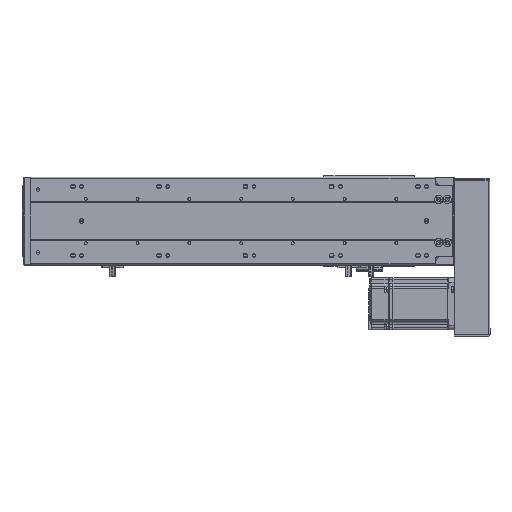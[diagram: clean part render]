
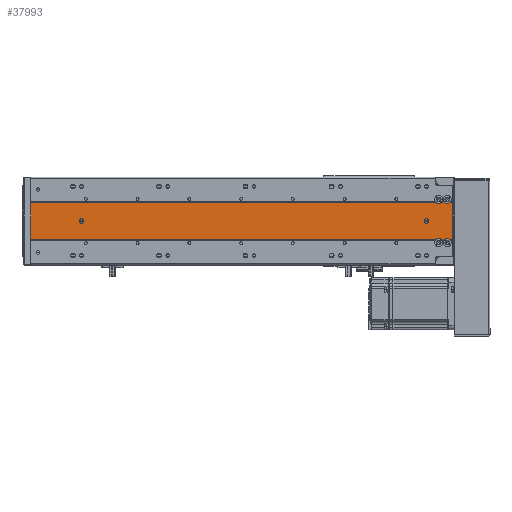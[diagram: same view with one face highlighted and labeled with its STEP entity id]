
A CAD part, front view. The second image highlights one B-rep face of the part: STEP entity #37993.
In plain terms, the highlighted planar face has unit normal (0, -1, 0).
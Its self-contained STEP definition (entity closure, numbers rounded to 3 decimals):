
#2953 = FACE_BOUND ( 'NONE', #14670, .T. ) ;
#2991 = FACE_BOUND ( 'NONE', #14742, .T. ) ;
#2996 = FACE_OUTER_BOUND ( 'NONE', #14678, .T. ) ;
#7656 = ORIENTED_EDGE ( 'NONE', *, *, #21177, .F. ) ;
#7660 = ORIENTED_EDGE ( 'NONE', *, *, #21561, .F. ) ;
#7663 = ORIENTED_EDGE ( 'NONE', *, *, #20690, .T. ) ;
#7677 = ORIENTED_EDGE ( 'NONE', *, *, #21155, .F. ) ;
#7696 = ORIENTED_EDGE ( 'NONE', *, *, #23199, .F. ) ;
#7705 = ORIENTED_EDGE ( 'NONE', *, *, #23178, .F. ) ;
#7719 = ORIENTED_EDGE ( 'NONE', *, *, #23203, .T. ) ;
#7723 = ORIENTED_EDGE ( 'NONE', *, *, #21690, .F. ) ;
#7729 = ORIENTED_EDGE ( 'NONE', *, *, #23209, .F. ) ;
#7737 = ORIENTED_EDGE ( 'NONE', *, *, #23162, .T. ) ;
#7742 = ORIENTED_EDGE ( 'NONE', *, *, #21615, .T. ) ;
#7749 = ORIENTED_EDGE ( 'NONE', *, *, #21634, .F. ) ;
#7751 = ORIENTED_EDGE ( 'NONE', *, *, #20734, .T. ) ;
#7773 = ORIENTED_EDGE ( 'NONE', *, *, #21618, .T. ) ;
#7827 = ORIENTED_EDGE ( 'NONE', *, *, #23213, .T. ) ;
#7830 = ORIENTED_EDGE ( 'NONE', *, *, #23214, .T. ) ;
#10906 = CARTESIAN_POINT ( 'NONE',  ( 140.403, 89.548, 59. ) ) ;
#10910 = DIRECTION ( 'NONE',  ( 1., 0., 0. ) ) ;
#10935 = DIRECTION ( 'NONE',  ( 0., -1., 0. ) ) ;
#10949 = CARTESIAN_POINT ( 'NONE',  ( 140.403, 89.548, 459. ) ) ;
#10962 = DIRECTION ( 'NONE',  ( 1., 0., 0. ) ) ;
#10972 = DIRECTION ( 'NONE',  ( 0., -1., 0. ) ) ;
#11452 = CARTESIAN_POINT ( 'NONE',  ( 118.817, 89.548, 486.302 ) ) ;
#14670 = EDGE_LOOP ( 'NONE', ( #7705, #7677 ) ) ;
#14678 = EDGE_LOOP ( 'NONE', ( #7660, #7663, #7729, #7749, #7827, #7719, #7773, #7737, #7742, #7830, #7723, #7751 ) ) ;
#14742 = EDGE_LOOP ( 'NONE', ( #7696, #7656 ) ) ;
#17355 = CARTESIAN_POINT ( 'NONE',  ( 161.989, 89.548, 479.698 ) ) ;
#17583 = CARTESIAN_POINT ( 'NONE',  ( 161.989, 89.548, 0. ) ) ;
#17602 = CARTESIAN_POINT ( 'NONE',  ( 118.817, 89.548, 489. ) ) ;
#17615 = DIRECTION ( 'NONE',  ( 1., 0., 0. ) ) ;
#17643 = DIRECTION ( 'NONE',  ( 0., 0., -1. ) ) ;
#20690 = EDGE_CURVE ( 'NONE', #24711, #46343, #26781, .T. ) ;
#20734 = EDGE_CURVE ( 'NONE', #46333, #46324, #26820, .T. ) ;
#21155 = EDGE_CURVE ( 'NONE', #46530, #46532, #44473, .T. ) ;
#21177 = EDGE_CURVE ( 'NONE', #46461, #46520, #44475, .T. ) ;
#21561 = EDGE_CURVE ( 'NONE', #24711, #46324, #40059, .T. ) ;
#21615 = EDGE_CURVE ( 'NONE', #46678, #46702, #40109, .T. ) ;
#21618 = EDGE_CURVE ( 'NONE', #46647, #46688, #40120, .T. ) ;
#21634 = EDGE_CURVE ( 'NONE', #46689, #46704, #40217, .T. ) ;
#21690 = EDGE_CURVE ( 'NONE', #46333, #46658, #40288, .T. ) ;
#22209 = CARTESIAN_POINT ( 'NONE',  ( 161.989, 89.548, 489. ) ) ;
#22217 = DIRECTION ( 'NONE',  ( 0., 1., 0. ) ) ;
#22219 = DIRECTION ( 'NONE',  ( -1., 0., 0. ) ) ;
#22252 = PLANE ( 'NONE',  #34525 ) ;
#23162 = EDGE_CURVE ( 'NONE', #46688, #46678, #23855, .T. ) ;
#23178 = EDGE_CURVE ( 'NONE', #46532, #46530, #23913, .T. ) ;
#23199 = EDGE_CURVE ( 'NONE', #46520, #46461, #24013, .T. ) ;
#23203 = EDGE_CURVE ( 'NONE', #31673, #46647, #23973, .T. ) ;
#23209 = EDGE_CURVE ( 'NONE', #46704, #46343, #24063, .T. ) ;
#23213 = EDGE_CURVE ( 'NONE', #46689, #31673, #24073, .T. ) ;
#23214 = EDGE_CURVE ( 'NONE', #46702, #46658, #23977, .T. ) ;
#23855 = CIRCLE ( 'NONE', #41348, 4.75 ) ;
#23913 = CIRCLE ( 'NONE', #41351, 2.5 ) ;
#23967 = VECTOR ( 'NONE', #25704, 1000. ) ;
#23973 = CIRCLE ( 'NONE', #41328, 4.75 ) ;
#23977 = LINE ( 'NONE', #17583, #24005 ) ;
#24005 = VECTOR ( 'NONE', #17615, 1000. ) ;
#24013 = CIRCLE ( 'NONE', #41327, 2.5 ) ;
#24063 = LINE ( 'NONE', #25949, #23967 ) ;
#24067 = VECTOR ( 'NONE', #17643, 1000. ) ;
#24073 = LINE ( 'NONE', #17602, #24067 ) ;
#24711 = VERTEX_POINT ( 'NONE', #17355 ) ;
#25704 = DIRECTION ( 'NONE',  ( 0., 0., -1. ) ) ;
#25818 = CARTESIAN_POINT ( 'NONE',  ( 115.403, 89.548, 473. ) ) ;
#25821 = DIRECTION ( 'NONE',  ( -1., 0., 0. ) ) ;
#25844 = DIRECTION ( 'NONE',  ( 0., 1., 0. ) ) ;
#25863 = CARTESIAN_POINT ( 'NONE',  ( 140.403, 89.548, 59. ) ) ;
#25873 = DIRECTION ( 'NONE',  ( 0., -1., 0. ) ) ;
#25874 = DIRECTION ( 'NONE',  ( 1., 0., 0. ) ) ;
#25898 = DIRECTION ( 'NONE',  ( 0., -1., 0. ) ) ;
#25910 = DIRECTION ( 'NONE',  ( 0., 1., 0. ) ) ;
#25914 = DIRECTION ( 'NONE',  ( -1., 0., 0. ) ) ;
#25919 = CARTESIAN_POINT ( 'NONE',  ( 140.403, 89.548, 459. ) ) ;
#25920 = CARTESIAN_POINT ( 'NONE',  ( 115.403, 89.548, 483. ) ) ;
#25933 = DIRECTION ( 'NONE',  ( 1., 0., 0. ) ) ;
#25949 = CARTESIAN_POINT ( 'NONE',  ( 161.989, 89.548, 489. ) ) ;
#26781 = CIRCLE ( 'NONE', #52499, 4.75 ) ;
#26820 = CIRCLE ( 'NONE', #52491, 4.75 ) ;
#31673 = VERTEX_POINT ( 'NONE', #11452 ) ;
#31848 = CARTESIAN_POINT ( 'NONE',  ( 142.903, 89.548, 459. ) ) ;
#32049 = CARTESIAN_POINT ( 'NONE',  ( 137.903, 89.548, 59. ) ) ;
#32294 = CARTESIAN_POINT ( 'NONE',  ( 142.903, 89.548, 59. ) ) ;
#32776 = CARTESIAN_POINT ( 'NONE',  ( 161.989, 89.548, 469.698 ) ) ;
#32785 = CARTESIAN_POINT ( 'NONE',  ( 161.989, 89.548, 486.302 ) ) ;
#32798 = CARTESIAN_POINT ( 'NONE',  ( 161.989, 89.548, 476.302 ) ) ;
#32949 = CARTESIAN_POINT ( 'NONE',  ( 137.903, 89.548, 459. ) ) ;
#34525 = AXIS2_PLACEMENT_3D ( 'NONE', #22209, #22217, #22219 ) ;
#37993 = ADVANCED_FACE ( 'NONE', ( #2991, #2953, #2996 ), #22252, .F. ) ;
#39651 = CARTESIAN_POINT ( 'NONE',  ( 161.989, 89.548, 489. ) ) ;
#39674 = DIRECTION ( 'NONE',  ( 0., 0., -1. ) ) ;
#39728 = CARTESIAN_POINT ( 'NONE',  ( 118.817, 89.548, 489. ) ) ;
#39730 = DIRECTION ( 'NONE',  ( 0., 0., -1. ) ) ;
#39733 = DIRECTION ( 'NONE',  ( 0., 0., -1. ) ) ;
#39736 = CARTESIAN_POINT ( 'NONE',  ( 118.817, 89.548, 489. ) ) ;
#39769 = CARTESIAN_POINT ( 'NONE',  ( 161.989, 89.548, 489. ) ) ;
#39778 = DIRECTION ( 'NONE',  ( 1., 0., 0. ) ) ;
#39888 = CARTESIAN_POINT ( 'NONE',  ( 161.989, 89.548, 489. ) ) ;
#39889 = DIRECTION ( 'NONE',  ( 0., 0., -1. ) ) ;
#40059 = LINE ( 'NONE', #39651, #40100 ) ;
#40100 = VECTOR ( 'NONE', #39674, 1000. ) ;
#40109 = LINE ( 'NONE', #39728, #40152 ) ;
#40120 = LINE ( 'NONE', #39736, #40124 ) ;
#40124 = VECTOR ( 'NONE', #39733, 1000. ) ;
#40152 = VECTOR ( 'NONE', #39730, 1000. ) ;
#40206 = VECTOR ( 'NONE', #39778, 1000. ) ;
#40217 = LINE ( 'NONE', #39769, #40206 ) ;
#40271 = VECTOR ( 'NONE', #39889, 1000. ) ;
#40288 = LINE ( 'NONE', #39888, #40271 ) ;
#41139 = AXIS2_PLACEMENT_3D ( 'NONE', #10949, #10972, #10962 ) ;
#41151 = AXIS2_PLACEMENT_3D ( 'NONE', #10906, #10935, #10910 ) ;
#41327 = AXIS2_PLACEMENT_3D ( 'NONE', #25919, #25898, #25933 ) ;
#41328 = AXIS2_PLACEMENT_3D ( 'NONE', #25920, #25910, #25914 ) ;
#41348 = AXIS2_PLACEMENT_3D ( 'NONE', #25818, #25844, #25821 ) ;
#41351 = AXIS2_PLACEMENT_3D ( 'NONE', #25863, #25873, #25874 ) ;
#44473 = CIRCLE ( 'NONE', #41151, 2.5 ) ;
#44475 = CIRCLE ( 'NONE', #41139, 2.5 ) ;
#45866 = DIRECTION ( 'NONE',  ( 0., 1., 0. ) ) ;
#45904 = CARTESIAN_POINT ( 'NONE',  ( 165.403, 89.548, 483. ) ) ;
#45906 = DIRECTION ( 'NONE',  ( -1., 0., 0. ) ) ;
#45976 = DIRECTION ( 'NONE',  ( 0., 1., 0. ) ) ;
#45986 = CARTESIAN_POINT ( 'NONE',  ( 165.403, 89.548, 473. ) ) ;
#45988 = DIRECTION ( 'NONE',  ( -1., 0., 0. ) ) ;
#46324 = VERTEX_POINT ( 'NONE', #32798 ) ;
#46333 = VERTEX_POINT ( 'NONE', #32776 ) ;
#46343 = VERTEX_POINT ( 'NONE', #32785 ) ;
#46461 = VERTEX_POINT ( 'NONE', #32949 ) ;
#46520 = VERTEX_POINT ( 'NONE', #31848 ) ;
#46530 = VERTEX_POINT ( 'NONE', #32049 ) ;
#46532 = VERTEX_POINT ( 'NONE', #32294 ) ;
#46647 = VERTEX_POINT ( 'NONE', #59971 ) ;
#46658 = VERTEX_POINT ( 'NONE', #59995 ) ;
#46678 = VERTEX_POINT ( 'NONE', #60081 ) ;
#46688 = VERTEX_POINT ( 'NONE', #60135 ) ;
#46689 = VERTEX_POINT ( 'NONE', #60068 ) ;
#46702 = VERTEX_POINT ( 'NONE', #60103 ) ;
#46704 = VERTEX_POINT ( 'NONE', #60096 ) ;
#52491 = AXIS2_PLACEMENT_3D ( 'NONE', #45986, #45976, #45988 ) ;
#52499 = AXIS2_PLACEMENT_3D ( 'NONE', #45904, #45866, #45906 ) ;
#59971 = CARTESIAN_POINT ( 'NONE',  ( 118.817, 89.548, 479.698 ) ) ;
#59995 = CARTESIAN_POINT ( 'NONE',  ( 161.989, 89.548, 0. ) ) ;
#60068 = CARTESIAN_POINT ( 'NONE',  ( 118.817, 89.548, 489. ) ) ;
#60081 = CARTESIAN_POINT ( 'NONE',  ( 118.817, 89.548, 469.698 ) ) ;
#60096 = CARTESIAN_POINT ( 'NONE',  ( 161.989, 89.548, 489. ) ) ;
#60103 = CARTESIAN_POINT ( 'NONE',  ( 118.817, 89.548, 0. ) ) ;
#60135 = CARTESIAN_POINT ( 'NONE',  ( 118.817, 89.548, 476.302 ) ) ;
